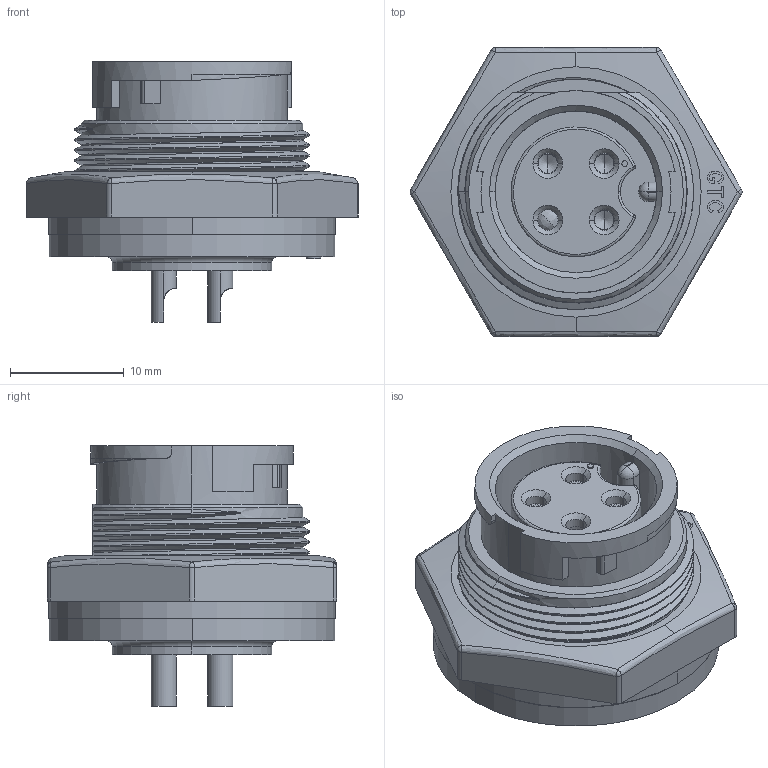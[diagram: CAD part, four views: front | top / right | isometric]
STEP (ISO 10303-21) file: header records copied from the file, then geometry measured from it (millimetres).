
FILE_DESCRIPTION (( 'STEP AP203' ), '1' );
FILE_NAME ('RR-153200-03030.STEP', '2025-02-26T07:37:43', ( '' ), ( '' ), 'SwSTEP 2.0', 'SolidWorks 2019', '' );
FILE_SCHEMA (( 'CONFIG_CONTROL_DESIGN' ));
Length unit declared in the file: millimetre
Products named in the file (1): RR-153200-03030
Bounding box: 29.17 x 25.4 x 22.9 mm (x, y, z)
Volume: 5776.2 mm3; surface area: 5521.8 mm2
Topology: 3 solids, 3 shells, 507 faces, 1359 edges, 870 vertices
Faces by surface type: plane 215, cylinder 133, bspline 96, cone 51, sphere 6, torus 6
Entity records: 46734 total; most frequent: CARTESIAN_POINT 35153, ORIENTED_EDGE 2678, DIRECTION 1961, EDGE_CURVE 1339, VERTEX_POINT 868, AXIS2_PLACEMENT_3D 709, LINE 543, VECTOR 543
